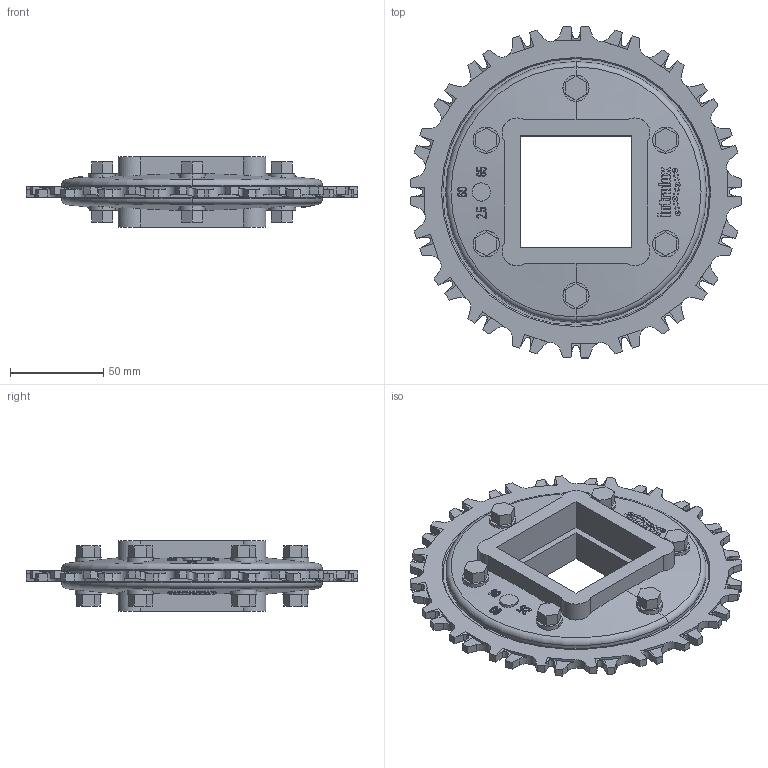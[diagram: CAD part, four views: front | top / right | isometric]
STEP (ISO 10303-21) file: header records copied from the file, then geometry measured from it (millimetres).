
FILE_DESCRIPTION((''),'2;1');
FILE_NAME('S900_SPL_PLASTIC_68X25_60_SQ_ASM','2008-12-12T',('jmumphre'),(''),'PRO/ENGINEER BY PARAMETRIC TECHNOLOGY CORPORATION, 2008150','PRO/ENGINEER BY PARAMETRIC TECHNOLOGY CORPORATION, 2008150','');
FILE_SCHEMA(('CONFIG_CONTROL_DESIGN'));
Length unit declared in the file: inch
Products named in the file (5): S900_TP_PLASTIC_68X270_SQ_AF2; JOINING_PLATE_6X25_60_65_SQ_AF2; JOINING_PLATE_6X25_60_65_SQ_AF3; BOLTS_N_NUTS_4-376X0-770_AF3; S900_SPL_PLASTIC_68X25_60_SQ_ASM
Assembly tree (4 placements, depth 2):
  S900_SPL_PLASTIC_68X25_60_SQ_ASM
    S900_TP_PLASTIC_68X270_SQ_AF2
    JOINING_PLATE_6X25_60_65_SQ_AF2
    JOINING_PLATE_6X25_60_65_SQ_AF3
    BOLTS_N_NUTS_4-376X0-770_AF3
Bounding box: 177.86 x 177.86 x 37.59 mm (x, y, z)
Volume: 280899.4 mm3; surface area: 116903.3 mm2
Topology: 9 solids, 9 shells, 1532 faces, 4298 edges, 2860 vertices
Faces by surface type: plane 1160, cylinder 308, cone 60, torus 4
Entity records: 53637 total; most frequent: CARTESIAN_POINT 17633, ORIENTED_EDGE 8596, DIRECTION 5620, EDGE_CURVE 4298, VERTEX_POINT 2860, VECTOR 2050, LINE 2050, B_SPLINE_CURVE_WITH_KNOTS 2004
